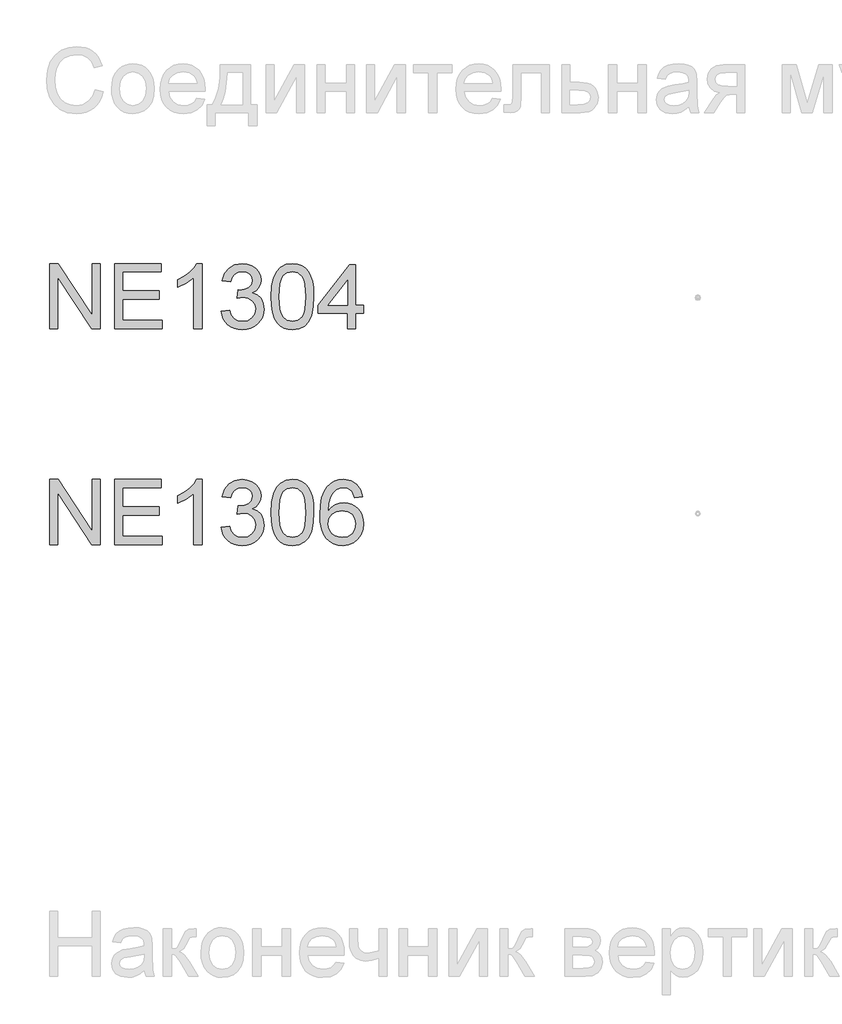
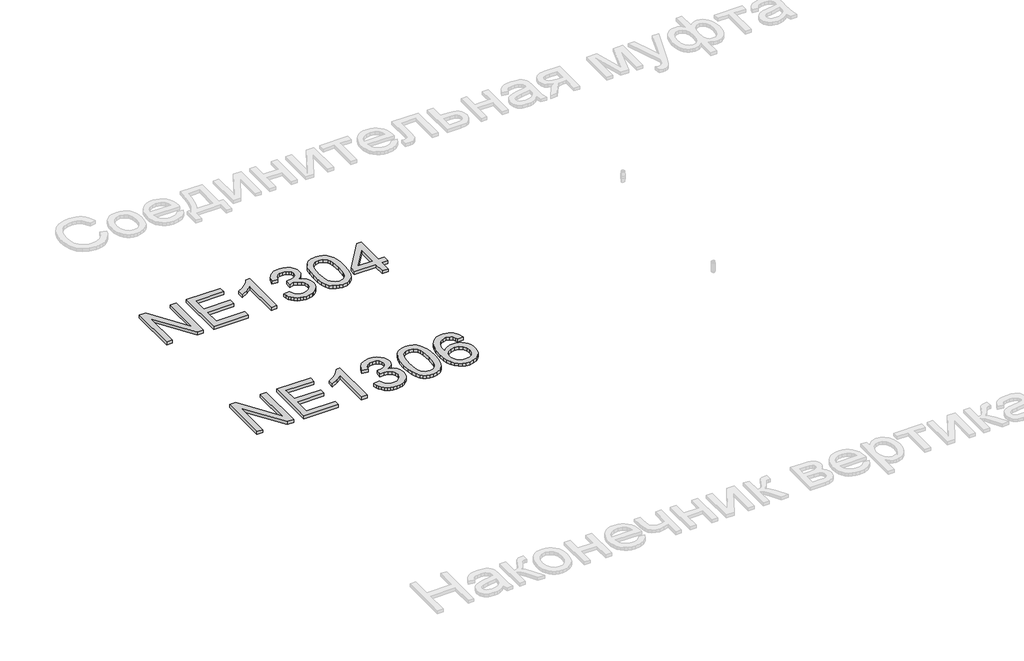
# One storey, part 47 of 124: 2 proxies.
"""IFC4 building model written with IfcOpenShell, lengths in millimetres."""

import ifcopenshell
import ifcopenshell.guid

model = None  # the IFC model being written
_history = None  # IfcOwnerHistory: only IFC2X3 demands one
_inside = {}  # id of a spatial element -> (the spatial element, [elements in it])
_under = {}  # id of a project, library or spatial element -> (it, [spatial elements below it])
_declared = {}  # id of a project -> (the project, [libraries it declares])
_typed = {}  # id of a type object -> (the type object, [elements of that type])
_made_of = {}  # id of a material, layer set ... -> (it, [elements and type objects made of it])


def new_model(schema):
    """Start an empty IFC model of exactly this schema.

    Asked for "IFC4X3", IfcOpenShell would pick the latest addendum, in which some entities
    have other attributes; the version numbers below select the first issue.
    IFC2X3 requires an IfcOwnerHistory on every rooted entity: one is made here for all.
    """
    global model, _history
    if schema == "IFC4X3":
        model = ifcopenshell.file(schema_version=(4, 3, 0, 0))
    else:
        model = ifcopenshell.file(schema=schema)
    _inside.clear()
    _under.clear()
    _declared.clear()
    _typed.clear()
    _made_of.clear()
    _history = None
    if model.schema == "IFC2X3":
        org = make("IfcOrganization", Name="unknown")
        user = make(
            "IfcPersonAndOrganization",
            ThePerson=make("IfcPerson", FamilyName="unknown"),
            TheOrganization=org,
        )
        app = make(
            "IfcApplication",
            ApplicationDeveloper=org,
            Version="unknown",
            ApplicationFullName="unknown",
            ApplicationIdentifier="unknown",
        )
        _history = make(
            "IfcOwnerHistory",
            OwningUser=user,
            OwningApplication=app,
            ChangeAction="ADDED",
            CreationDate=0,
        )
    return model


def make(cls, **values):
    """One entity of the class cls with the attributes given. An attribute that is None is left unset."""
    return model.create_entity(
        cls, **{name: value for name, value in values.items() if value is not None}
    )


def rooted(cls, **values):
    """An entity with a GlobalId (a new one), such as an element, a storey or a relation."""
    return make(cls, GlobalId=ifcopenshell.guid.new(), OwnerHistory=_history, **values)


def si_unit(unit_type, name, prefix=None):
    """IfcSIUnit, for example si_unit("LENGTHUNIT", "METRE", prefix="MILLI")."""
    return make("IfcSIUnit", UnitType=unit_type, Prefix=prefix, Name=name)


def assignment(units):
    """IfcUnitAssignment: the units of a project."""
    return None if units is None else make("IfcUnitAssignment", Units=units)


def point(xyz):
    """IfcCartesianPoint."""
    return None if xyz is None else make("IfcCartesianPoint", Coordinates=xyz)


def direction(xyz):
    """IfcDirection."""
    return None if xyz is None else make("IfcDirection", DirectionRatios=xyz)


def frame(location, z_axis=None, x_axis=None):
    """IfcAxis2Placement3D, a coordinate frame: its origin and axes. An axis left out is left unset."""
    return make(
        "IfcAxis2Placement3D",
        Location=point(location),
        Axis=direction(z_axis),
        RefDirection=direction(x_axis),
    )


def origin():
    """The frame at (0, 0, 0) with its axes left unset."""
    return frame((0.0, 0.0, 0.0))


def origin_with_axes():
    """The frame at (0, 0, 0) with the z axis (0, 0, 1) and the x axis (1, 0, 0) written out."""
    return frame((0.0, 0.0, 0.0), z_axis=(0.0, 0.0, 1.0), x_axis=(1.0, 0.0, 0.0))


def place(relative_to, where):
    """IfcLocalPlacement: puts the frame where relative to a parent placement (None: the world)."""
    return make(
        "IfcLocalPlacement", PlacementRelTo=relative_to, RelativePlacement=where
    )


def context(
    kind, dimensions, precision=None, world=None, true_north=None, identifier=None
):
    """IfcGeometricRepresentationContext, for example the 3D "Model" context."""
    return make(
        "IfcGeometricRepresentationContext",
        ContextIdentifier=identifier,
        ContextType=kind,
        CoordinateSpaceDimension=dimensions,
        Precision=precision,
        WorldCoordinateSystem=world,
        TrueNorth=true_north,
    )


def project(units=None, contexts=None):
    """IfcProject with its units and contexts."""
    return rooted(
        "IfcProject",
        Name="project",
        RepresentationContexts=contexts,
        UnitsInContext=assignment(units),
    )


def spatial(cls, under=None, at=None, **own):
    """A site, building, storey or space (cls), placed at a placement, below another one or the project."""
    s = rooted(cls, ObjectPlacement=at, **own)
    if under is not None:
        _under.setdefault(under.id(), (under, []))[1].append(s)
    return s


def polyline(points):
    """IfcPolyline through the points."""
    return make("IfcPolyline", Points=[point(p) for p in points])


def outline(outer, holes=None, kind="AREA"):
    """IfcArbitraryClosedProfileDef: a profile drawn as a closed curve; with holes, ...WithVoids."""
    if holes is None:
        return make("IfcArbitraryClosedProfileDef", ProfileType=kind, OuterCurve=outer)
    return make(
        "IfcArbitraryProfileDefWithVoids",
        ProfileType=kind,
        OuterCurve=outer,
        InnerCurves=holes,
    )


def extrude(swept, where, along, depth):
    """IfcExtrudedAreaSolid: the profile swept, set in the frame where, extruded along a direction by depth."""
    return make(
        "IfcExtrudedAreaSolid",
        SweptArea=swept,
        Position=where,
        ExtrudedDirection=direction(along),
        Depth=depth,
    )


def shape(context_of_items, identifier, shape_type, items):
    """IfcShapeRepresentation: the items that make up one representation, for example the "Body"."""
    return make(
        "IfcShapeRepresentation",
        ContextOfItems=context_of_items,
        RepresentationIdentifier=identifier,
        RepresentationType=shape_type,
        Items=items,
    )


def made_of(thing, what):
    """Note that an element or type object is made of a material, layer set ...; save() writes the relation."""
    if what is not None:
        _made_of.setdefault(what.id(), (what, []))[1].append(thing)
    return thing


def element(
    cls,
    number,
    at=None,
    inside=None,
    cuts=None,
    type_object=None,
    material=None,
    context=None,
    identifier="Body",
    shape_type=None,
    held_by="IfcProductDefinitionShape",
    body=None,
    shapes=None,
    **own,
):
    """One element of the class cls, such as IfcWall. Its Tag is "e" and its number.

    at: its placement. inside: the storey or other place that contains it. cuts: it is an
    opening in that element (IfcRelVoidsElement). A single representation is given by context,
    identifier, shape_type and body (its items); several are given by shapes. held_by: the class
    of the entity that holds the representations. save() writes the other relations.
    """
    e = rooted(cls, Tag="e%d" % number, ObjectPlacement=at, **own)
    if body is not None:
        shapes = [shape(context, identifier, shape_type, body)]
    if shapes is not None:
        e.Representation = make(held_by, Representations=shapes)
    if inside is not None:
        _inside.setdefault(inside.id(), (inside, []))[1].append(e)
    if cuts is not None:
        rooted(
            "IfcRelVoidsElement", RelatingBuildingElement=cuts, RelatedOpeningElement=e
        )
    if type_object is not None:
        _typed.setdefault(type_object.id(), (type_object, []))[1].append(e)
    return made_of(e, material)


def aggregate(whole, parts):
    """IfcRelAggregates: a whole, such as a stair, and the parts it consists of."""
    return rooted("IfcRelAggregates", RelatingObject=whole, RelatedObjects=parts)


def save(model, path):
    """Write the relations noted so far, then the file.

    IfcRelAggregates (storeys below a building ...), IfcRelContainedInSpatialStructure (elements
    in a storey), IfcRelDefinesByType, IfcRelAssociatesMaterial and IfcRelDeclares: one each for
    every whole, place, type object, material and project.
    """
    for whole, parts in _under.values():
        aggregate(whole, parts)
    for where, things in _inside.values():
        rooted(
            "IfcRelContainedInSpatialStructure",
            RelatedElements=things,
            RelatingStructure=where,
        )
    for kind, things in _typed.values():
        rooted("IfcRelDefinesByType", RelatedObjects=things, RelatingType=kind)
    for what, things in _made_of.values():
        rooted("IfcRelAssociatesMaterial", RelatedObjects=things, RelatingMaterial=what)
    for by, libraries in _declared.values():
        rooted("IfcRelDeclares", RelatingContext=by, RelatedDefinitions=libraries)
    model.write(path)


model = new_model("IFC4")

# Units and contexts
model_context = context("Model", 3, world=origin())
ifc_project = project(units=[si_unit("LENGTHUNIT", "METRE", prefix="MILLI")], contexts=[model_context])

# Site, building, storey
site = spatial("IfcSite", under=ifc_project)
building = spatial("IfcBuilding", under=site)
storey = spatial("IfcBuildingStorey", under=building, Name="Этаж 01", Elevation=0.0)

# Proxies
placement = place(None, origin())
element("IfcBuildingElementProxy", 1, Name="300", ObjectType="300", at=placement, inside=storey, context=model_context, shape_type="SweptSolid", body=[
    extrude(outline(polyline([(32939.8675381, -77074.498362), (32939.8675381, -76773.1294316), (32980.1874048, -76773.1294316), (33137.6408988, -77011.8848464), (33137.6408988, -76773.1294316), (33175.3120151, -76773.1294316), (33175.3120151, -77074.498362), (33134.9921484, -77074.498362), (32977.5386545, -76835.6693707), (32977.5386545, -77074.498362), (32939.8675381, -77074.498362)])), origin_with_axes(), (0.0, 0.0, 1.0), 20.0),
    extrude(outline(polyline([(33241.2364686, -77074.498362), (33241.2364686, -76773.1294316), (33457.8453874, -76773.1294316), (33457.8453874, -76810.8005479), (33278.9075849, -76810.8005479), (33278.9075849, -76900.2694491), (33448.4276083, -76900.2694491), (33448.4276083, -76937.9405654), (33278.9075849, -76937.9405654), (33278.9075849, -77036.8272457), (33462.5542769, -77036.8272457), (33462.5542769, -77074.498362), (33241.2364686, -77074.498362)])), origin_with_axes(), (0.0, 0.0, 1.0), 20.0),
    extrude(outline(polyline([(33646.2009689, -77074.498362), (33608.5298526, -77074.498362), (33608.5298526, -76839.6424963), (33572.8452991, -76865.0631421), (33533.18762, -76884.0826413), (33533.18762, -76848.4716642), (33562.7745294, -76832.3768269), (33588.4067074, -76813.228569), (33608.612626, -76792.8663006), (33621.9207572, -76773.1294316), (33646.2009689, -76773.1294316), (33646.2009689, -77074.498362)])), origin_with_axes(), (0.0, 0.0, 1.0), 20.0),
    extrude(outline(polyline([(33735.6698701, -76994.4472399), (33773.3409864, -76989.7383503), (33781.7746812, -77013.4115567), (33794.1263191, -77029.3960294), (33811.0029057, -77038.5011088), (33833.011446, -77041.5361352), (33858.8367621, -77037.3606746), (33878.7759662, -77024.8342927), (33891.5230774, -77006.1458873), (33895.7721144, -76983.4843564), (33891.5598656, -76961.9724567), (33878.923119, -76944.5256531), (33859.7932553, -76932.9649614), (33836.1016548, -76929.1113975), (33809.6877275, -76933.2316759), (33813.8815823, -76895.5605595), (33819.914847, -76896.0020179), (33842.4844074, -76893.2980853), (33862.6627349, -76885.1862873), (33876.8997681, -76871.4642889), (33881.6454458, -76851.9297549), (33878.2057491, -76835.6601737), (33867.8866592, -76822.4624071), (33852.1413098, -76813.7160127), (33832.4228348, -76810.8005479), (33812.6675717, -76813.7436038), (33796.5175521, -76822.5727717), (33784.7269342, -76837.2880515), (33778.049876, -76857.8894432), (33740.3787597, -76853.1805537), (33751.4704018, -76819.3538042), (33771.2072708, -76794.0987053), (33798.2098093, -76778.37175), (33831.0984597, -76773.1294316), (33854.7808631, -76775.7138026), (33876.5318861, -76783.4669156), (33894.8708035, -76795.698992), (33908.3168905, -76811.7202528), (33916.5666442, -76830.178732), (33919.3165621, -76849.7224629), (33916.7045999, -76867.9326217), (33908.8687134, -76884.4505233), (33895.9192672, -76898.5220096), (33877.9666258, -76909.3929226), (33901.5478617, -76918.9210662), (33919.0222565, -76935.1446622), (33929.8379872, -76957.1807937), (33933.4432307, -76984.146544), (33931.6406089, -77003.2580136), (33926.2327436, -77020.8611671), (33917.2196347, -77036.9560044), (33904.6012823, -77051.5425255), (33889.2284134, -77063.6458431), (33871.9517552, -77072.29107), (33852.7713077, -77077.4782062), (33831.6870709, -77079.2072515), (33812.6307835, -77077.731125), (33795.2667533, -77073.3027455), (33779.5949803, -77065.922113), (33765.6154645, -77055.5892274), (33753.8938245, -77042.9110942), (33744.9956787, -77028.4947185), (33738.9210272, -77012.3401004), (33735.6698701, -76994.4472399)])), origin_with_axes(), (0.0, 0.0, 1.0), 20.0),
    extrude(outline(polyline([(33966.4054575, -76926.2419179), (33969.1737695, -76878.0033913), (33977.4787055, -76839.5321317), (33991.2374922, -76810.2395278), (34010.3673559, -76789.5369685), (34035.0062525, -76777.2313158), (34065.2921378, -76773.1294316), (34088.5054917, -76775.5574527), (34109.2908244, -76782.8415162), (34126.6732487, -76794.6965135), (34139.6778772, -76810.8373361), (34149.5003265, -76831.1260281), (34157.336213, -76855.4246339), (34162.4681668, -76886.2807362), (34164.1788181, -76926.2419179), (34161.4380972, -76974.2045331), (34153.2159346, -77012.5838222), (34139.5399215, -77041.9040172), (34120.4376489, -77062.68935), (34095.7435699, -77075.0777761), (34065.2921378, -77079.2072515), (34044.5435933, -77077.4138268), (34026.1494935, -77072.0335526), (34010.1098385, -77063.066429), (33996.4246283, -77050.5124559), (33983.2912411, -77027.8187353), (33973.9102502, -76999.5424055), (33968.2816557, -76965.6834664), (33966.4054575, -76926.2419179)]), holes=[polyline([(34004.0765738, -76926.1683415), (34008.4911577, -76985.4249339), (34014.0093877, -77005.6929326), (34021.7349096, -77019.7207329), (34041.4533845, -77036.0822847), (34065.2921378, -77041.5361352), (34089.1308911, -77036.0638906), (34108.849366, -77019.6471565), (34116.5748879, -77005.5963636), (34122.0931178, -76985.3329634), (34126.5077018, -76926.1683415), (34122.2402706, -76868.2453214), (34116.9059817, -76848.0440013), (34109.4379772, -76833.682808), (34089.7562905, -76816.5211129), (34064.8506794, -76810.8005479), (34041.2694435, -76815.8405312), (34022.3235208, -76830.9604812), (34014.3404815, -76846.595466), (34008.6383105, -76867.6751043), (34004.0765738, -76926.1683415)])]), origin_with_axes(), (0.0, 0.0, 1.0), 20.0),
    extrude(outline(polyline([(34319.5721729, -77074.498362), (34319.5721729, -77003.8650189), (34183.0143763, -77003.8650189), (34183.0143763, -76966.1939026), (34328.9899519, -76777.8383211), (34357.2432892, -76777.8383211), (34357.2432892, -76966.1939026), (34394.9144055, -76966.1939026), (34394.9144055, -77003.8650189), (34357.2432892, -77003.8650189), (34357.2432892, -77074.498362), (34319.5721729, -77074.498362)]), holes=[polyline([(34319.5721729, -76966.1939026), (34319.5721729, -76849.7960393), (34229.3675076, -76966.1939026), (34319.5721729, -76966.1939026)])]), origin_with_axes(), (0.0, 0.0, 1.0), 20.0),
])
element("IfcBuildingElementProxy", 2, Name="300", ObjectType="300", at=placement, inside=storey, context=model_context, shape_type="SweptSolid", body=[
    extrude(outline(polyline([(32939.8675381, -78074.498362), (32939.8675381, -77773.1294316), (32980.1874048, -77773.1294316), (33137.6408988, -78011.8848464), (33137.6408988, -77773.1294316), (33175.3120151, -77773.1294316), (33175.3120151, -78074.498362), (33134.9921484, -78074.498362), (32977.5386545, -77835.6693707), (32977.5386545, -78074.498362), (32939.8675381, -78074.498362)])), origin_with_axes(), (0.0, 0.0, 1.0), 20.0),
    extrude(outline(polyline([(33241.2364686, -78074.498362), (33241.2364686, -77773.1294316), (33457.8453874, -77773.1294316), (33457.8453874, -77810.8005479), (33278.9075849, -77810.8005479), (33278.9075849, -77900.2694491), (33448.4276083, -77900.2694491), (33448.4276083, -77937.9405654), (33278.9075849, -77937.9405654), (33278.9075849, -78036.8272457), (33462.5542769, -78036.8272457), (33462.5542769, -78074.498362), (33241.2364686, -78074.498362)])), origin_with_axes(), (0.0, 0.0, 1.0), 20.0),
    extrude(outline(polyline([(33646.2009689, -78074.498362), (33608.5298526, -78074.498362), (33608.5298526, -77839.6424963), (33572.8452991, -77865.0631421), (33533.18762, -77884.0826413), (33533.18762, -77848.4716642), (33562.7745294, -77832.3768269), (33588.4067074, -77813.228569), (33608.612626, -77792.8663006), (33621.9207572, -77773.1294316), (33646.2009689, -77773.1294316), (33646.2009689, -78074.498362)])), origin_with_axes(), (0.0, 0.0, 1.0), 20.0),
    extrude(outline(polyline([(33735.6698701, -77994.4472399), (33773.3409864, -77989.7383503), (33781.7746812, -78013.4115567), (33794.1263191, -78029.3960294), (33811.0029057, -78038.5011088), (33833.011446, -78041.5361352), (33858.8367621, -78037.3606746), (33878.7759662, -78024.8342927), (33891.5230774, -78006.1458873), (33895.7721144, -77983.4843564), (33891.5598656, -77961.9724567), (33878.923119, -77944.5256531), (33859.7932553, -77932.9649614), (33836.1016548, -77929.1113975), (33809.6877275, -77933.2316759), (33813.8815823, -77895.5605595), (33819.914847, -77896.0020179), (33842.4844074, -77893.2980853), (33862.6627349, -77885.1862873), (33876.8997681, -77871.4642889), (33881.6454458, -77851.9297549), (33878.2057491, -77835.6601737), (33867.8866592, -77822.4624071), (33852.1413098, -77813.7160127), (33832.4228348, -77810.8005479), (33812.6675717, -77813.7436038), (33796.5175521, -77822.5727717), (33784.7269342, -77837.2880515), (33778.049876, -77857.8894432), (33740.3787597, -77853.1805537), (33751.4704018, -77819.3538042), (33771.2072708, -77794.0987053), (33798.2098093, -77778.37175), (33831.0984597, -77773.1294316), (33854.7808631, -77775.7138026), (33876.5318861, -77783.4669156), (33894.8708035, -77795.698992), (33908.3168905, -77811.7202528), (33916.5666442, -77830.178732), (33919.3165621, -77849.7224629), (33916.7045999, -77867.9326217), (33908.8687134, -77884.4505233), (33895.9192672, -77898.5220096), (33877.9666258, -77909.3929226), (33901.5478617, -77918.9210662), (33919.0222565, -77935.1446622), (33929.8379872, -77957.1807937), (33933.4432307, -77984.146544), (33931.6406089, -78003.2580136), (33926.2327436, -78020.8611671), (33917.2196347, -78036.9560044), (33904.6012823, -78051.5425255), (33889.2284134, -78063.6458431), (33871.9517552, -78072.29107), (33852.7713077, -78077.4782062), (33831.6870709, -78079.2072515), (33812.6307835, -78077.731125), (33795.2667533, -78073.3027455), (33779.5949803, -78065.922113), (33765.6154645, -78055.5892274), (33753.8938245, -78042.9110942), (33744.9956787, -78028.4947185), (33738.9210272, -78012.3401004), (33735.6698701, -77994.4472399)])), origin_with_axes(), (0.0, 0.0, 1.0), 20.0),
    extrude(outline(polyline([(33966.4054575, -77926.2419179), (33969.1737695, -77878.0033913), (33977.4787055, -77839.5321317), (33991.2374922, -77810.2395278), (34010.3673559, -77789.5369685), (34035.0062525, -77777.2313158), (34065.2921378, -77773.1294316), (34088.5054917, -77775.5574527), (34109.2908244, -77782.8415162), (34126.6732487, -77794.6965135), (34139.6778772, -77810.8373361), (34149.5003265, -77831.1260281), (34157.336213, -77855.4246339), (34162.4681668, -77886.2807362), (34164.1788181, -77926.2419179), (34161.4380972, -77974.2045331), (34153.2159346, -78012.5838222), (34139.5399215, -78041.9040172), (34120.4376489, -78062.68935), (34095.7435699, -78075.0777761), (34065.2921378, -78079.2072515), (34044.5435933, -78077.4138268), (34026.1494935, -78072.0335526), (34010.1098385, -78063.066429), (33996.4246283, -78050.5124559), (33983.2912411, -78027.8187353), (33973.9102502, -77999.5424055), (33968.2816557, -77965.6834664), (33966.4054575, -77926.2419179)]), holes=[polyline([(34004.0765738, -77926.1683415), (34008.4911577, -77985.4249339), (34014.0093877, -78005.6929326), (34021.7349096, -78019.7207329), (34041.4533845, -78036.0822847), (34065.2921378, -78041.5361352), (34089.1308911, -78036.0638906), (34108.849366, -78019.6471565), (34116.5748879, -78005.5963636), (34122.0931178, -77985.3329634), (34126.5077018, -77926.1683415), (34122.2402706, -77868.2453214), (34116.9059817, -77848.0440013), (34109.4379772, -77833.682808), (34089.7562905, -77816.5211129), (34064.8506794, -77810.8005479), (34041.2694435, -77815.8405312), (34022.3235208, -77830.9604812), (34014.3404815, -77846.595466), (34008.6383105, -77867.6751043), (34004.0765738, -77926.1683415)])]), origin_with_axes(), (0.0, 0.0, 1.0), 20.0),
    extrude(outline(polyline([(34390.2055159, -77853.1805537), (34352.5343996, -77857.8894432), (34346.4643467, -77839.219432), (34338.2605782, -77826.4723209), (34321.1724595, -77814.7184911), (34300.5158855, -77810.8005479), (34283.0047025, -77813.0814162), (34266.5235892, -77819.9240213), (34252.3693294, -77834.3357985), (34240.8086377, -77854.1738351), (34233.0003423, -77882.2340343), (34230.1032716, -77921.3122992), (34245.2140246, -77903.6815546), (34263.3230158, -77891.2563402), (34283.4185698, -77883.8895033), (34304.4890111, -77881.4338909), (34322.5888052, -77883.1123525), (34339.2906478, -77888.1477373), (34354.5945388, -77896.5400454), (34368.5004782, -77908.2892766), (34380.0565714, -77922.6964552), (34388.3109237, -77939.0626055), (34393.263535, -77957.3877274), (34394.9144055, -77977.6718209), (34391.8058026, -78004.6467682), (34382.479994, -78029.6535468), (34367.7095319, -78050.8619438), (34348.2669685, -78066.4417463), (34325.0352205, -78076.0158752), (34298.8972047, -78079.2072515), (34276.4403082, -78077.0919301), (34256.1585139, -78070.7459657), (34238.051822, -78060.1693583), (34222.1202323, -78045.362108), (34209.1316986, -78025.6988153), (34199.8541746, -78000.554081), (34194.2876601, -77969.9279049), (34192.4321553, -77933.820287), (34194.4922945, -77893.339472), (34200.672712, -77858.7907541), (34210.9734079, -77830.1741334), (34225.3943821, -77807.4896099), (34241.0247684, -77792.4570319), (34259.1475552, -77781.7194761), (34279.7627425, -77775.2769427), (34302.8703303, -77773.1294316), (34335.9245275, -77778.4453264), (34362.3936371, -77794.3930109), (34380.9348897, -77819.7216862), (34390.2055159, -77853.1805537)]), holes=[polyline([(34230.1032716, -77977.0832097), (34232.2829725, -77993.7758552), (34238.8220749, -78009.7143427), (34248.975618, -78023.417947), (34261.9986406, -78033.4059431), (34277.7163989, -78039.5035872), (34295.9541488, -78041.5361352), (34320.8137746, -78037.3238864), (34340.3575056, -78024.6871399), (34353.0218433, -78004.8215121), (34357.2432892, -77978.9226197), (34353.0770256, -77954.0629938), (34340.5782348, -77935.107874), (34320.70341, -77923.1057239), (34294.4090444, -77919.1050072), (34269.5862068, -77923.1057239), (34248.8284652, -77935.107874), (34234.78457, -77953.6031413), (34230.1032716, -77977.0832097)])]), origin_with_axes(), (0.0, 0.0, 1.0), 20.0),
])

save(model, "model.ifc")
